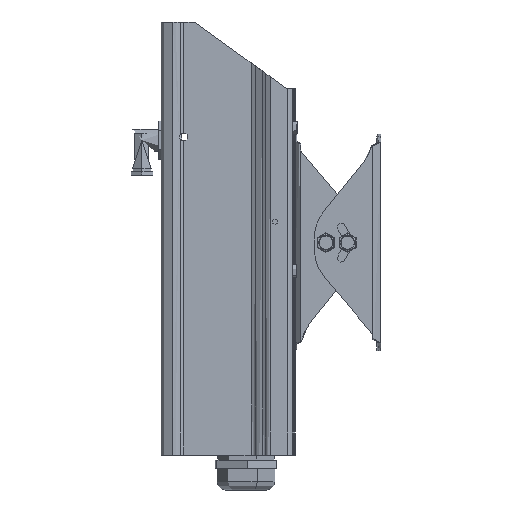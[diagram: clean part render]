
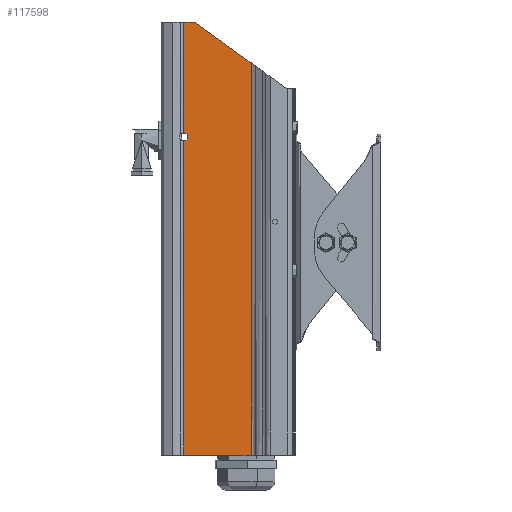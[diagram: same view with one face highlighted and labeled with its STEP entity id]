
A CAD part, left-side view. The second image highlights one B-rep face of the part: STEP entity #117598.
In plain terms, the highlighted planar face has unit normal (-1, 0, 0).
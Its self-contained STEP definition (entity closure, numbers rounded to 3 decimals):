
#4495 = AXIS2_PLACEMENT_3D ( 'NONE', #76545, #89400, #128893 ) ;
#4696 = CARTESIAN_POINT ( 'NONE',  ( -35.5, 63., 61. ) ) ;
#7776 = CARTESIAN_POINT ( 'NONE',  ( -35.5, 0., 130. ) ) ;
#8600 = ORIENTED_EDGE ( 'NONE', *, *, #39419, .F. ) ;
#9228 = EDGE_CURVE ( 'NONE', #150309, #57495, #114345, .T. ) ;
#12594 = DIRECTION ( 'NONE',  ( 0., -1., 0. ) ) ;
#13002 = CARTESIAN_POINT ( 'NONE',  ( -35.5, 65.386, 130. ) ) ;
#17556 = CARTESIAN_POINT ( 'NONE',  ( -35.5, 0., 130. ) ) ;
#18950 = FACE_OUTER_BOUND ( 'NONE', #84786, .T. ) ;
#23617 = CARTESIAN_POINT ( 'NONE',  ( -35.5, 65.386, -130. ) ) ;
#23949 = CARTESIAN_POINT ( 'NONE',  ( -35.5, 59., 130. ) ) ;
#28268 = CARTESIAN_POINT ( 'NONE',  ( -35.5, 24.983, -130. ) ) ;
#31926 = CIRCLE ( 'NONE', #4495, 2.5 ) ;
#33911 = EDGE_CURVE ( 'NONE', #119953, #150309, #31926, .T. ) ;
#35705 = CARTESIAN_POINT ( 'NONE',  ( -35.5, 65.386, 130. ) ) ;
#38098 = VECTOR ( 'NONE', #45849, 1000. ) ;
#38325 = CARTESIAN_POINT ( 'NONE',  ( -35.5, 0., -130. ) ) ;
#39130 = VERTEX_POINT ( 'NONE', #35705 ) ;
#39419 = EDGE_CURVE ( 'NONE', #117448, #109258, #153952, .T. ) ;
#43128 = AXIS2_PLACEMENT_3D ( 'NONE', #61394, #128281, #140308 ) ;
#45296 = ORIENTED_EDGE ( 'NONE', *, *, #9228, .T. ) ;
#45849 = DIRECTION ( 'NONE',  ( 0., -1., 0. ) ) ;
#52519 = EDGE_CURVE ( 'NONE', #39130, #121684, #87382, .T. ) ;
#56942 = ORIENTED_EDGE ( 'NONE', *, *, #33911, .T. ) ;
#57495 = VERTEX_POINT ( 'NONE', #23617 ) ;
#59326 = DIRECTION ( 'NONE',  ( 0., 1., 0. ) ) ;
#61394 = CARTESIAN_POINT ( 'NONE',  ( -35.5, 65.5, 61. ) ) ;
#62425 = ORIENTED_EDGE ( 'NONE', *, *, #164688, .T. ) ;
#67934 = CARTESIAN_POINT ( 'NONE',  ( -35.5, 24.983, 105.483 ) ) ;
#69399 = AXIS2_PLACEMENT_3D ( 'NONE', #7776, #74738, #59326 ) ;
#70088 = EDGE_CURVE ( 'NONE', #121684, #119953, #166562, .T. ) ;
#74552 = CARTESIAN_POINT ( 'NONE',  ( -35.5, 65.386, 130. ) ) ;
#74738 = DIRECTION ( 'NONE',  ( 1., 0., 0. ) ) ;
#75397 = EDGE_CURVE ( 'NONE', #39130, #117448, #138530, .T. ) ;
#75742 = DIRECTION ( 'NONE',  ( 0., 0., -1. ) ) ;
#76545 = CARTESIAN_POINT ( 'NONE',  ( -35.5, 65.5, 61. ) ) ;
#77520 = EDGE_CURVE ( 'NONE', #109258, #91103, #82649, .T. ) ;
#78942 = CARTESIAN_POINT ( 'NONE',  ( -35.5, 65.386, 63.497 ) ) ;
#82649 = LINE ( 'NONE', #122098, #89942 ) ;
#84786 = EDGE_LOOP ( 'NONE', ( #153863, #110885, #56942, #45296, #62425, #159390, #8600, #132369 ) ) ;
#87382 = LINE ( 'NONE', #74552, #134848 ) ;
#89400 = DIRECTION ( 'NONE',  ( 1., 0., 0. ) ) ;
#89942 = VECTOR ( 'NONE', #93001, 1000. ) ;
#91103 = VERTEX_POINT ( 'NONE', #28268 ) ;
#91561 = LINE ( 'NONE', #38325, #102450 ) ;
#93001 = DIRECTION ( 'NONE',  ( 0., 0., -1. ) ) ;
#99434 = DIRECTION ( 'NONE',  ( 0., 0., -1. ) ) ;
#102450 = VECTOR ( 'NONE', #12594, 1000. ) ;
#109258 = VERTEX_POINT ( 'NONE', #67934 ) ;
#110885 = ORIENTED_EDGE ( 'NONE', *, *, #70088, .T. ) ;
#114345 = LINE ( 'NONE', #13002, #155145 ) ;
#117224 = VECTOR ( 'NONE', #140223, 1000. ) ;
#117448 = VERTEX_POINT ( 'NONE', #23949 ) ;
#117598 = ADVANCED_FACE ( 'NONE', ( #18950 ), #163972, .F. ) ;
#119953 = VERTEX_POINT ( 'NONE', #4696 ) ;
#121684 = VERTEX_POINT ( 'NONE', #78942 ) ;
#122098 = CARTESIAN_POINT ( 'NONE',  ( -35.5, 24.983, 130. ) ) ;
#128281 = DIRECTION ( 'NONE',  ( 1., 0., 0. ) ) ;
#128893 = DIRECTION ( 'NONE',  ( 0., 1., 0. ) ) ;
#132369 = ORIENTED_EDGE ( 'NONE', *, *, #75397, .F. ) ;
#134848 = VECTOR ( 'NONE', #99434, 1000. ) ;
#136144 = CARTESIAN_POINT ( 'NONE',  ( -35.5, 65.386, 58.503 ) ) ;
#138513 = CARTESIAN_POINT ( 'NONE',  ( -35.5, 20.17, 102.014 ) ) ;
#138530 = LINE ( 'NONE', #17556, #38098 ) ;
#140223 = DIRECTION ( 'NONE',  ( 0., -0.811, -0.585 ) ) ;
#140308 = DIRECTION ( 'NONE',  ( 0., 1., 0. ) ) ;
#150309 = VERTEX_POINT ( 'NONE', #136144 ) ;
#153863 = ORIENTED_EDGE ( 'NONE', *, *, #52519, .T. ) ;
#153952 = LINE ( 'NONE', #138513, #117224 ) ;
#155145 = VECTOR ( 'NONE', #75742, 1000. ) ;
#159390 = ORIENTED_EDGE ( 'NONE', *, *, #77520, .F. ) ;
#163972 = PLANE ( 'NONE',  #69399 ) ;
#164688 = EDGE_CURVE ( 'NONE', #57495, #91103, #91561, .T. ) ;
#166562 = CIRCLE ( 'NONE', #43128, 2.5 ) ;
